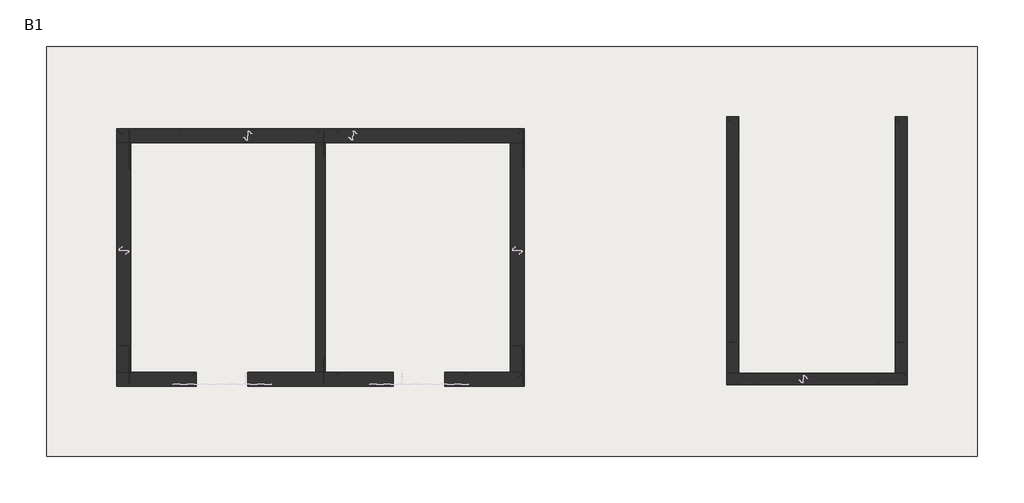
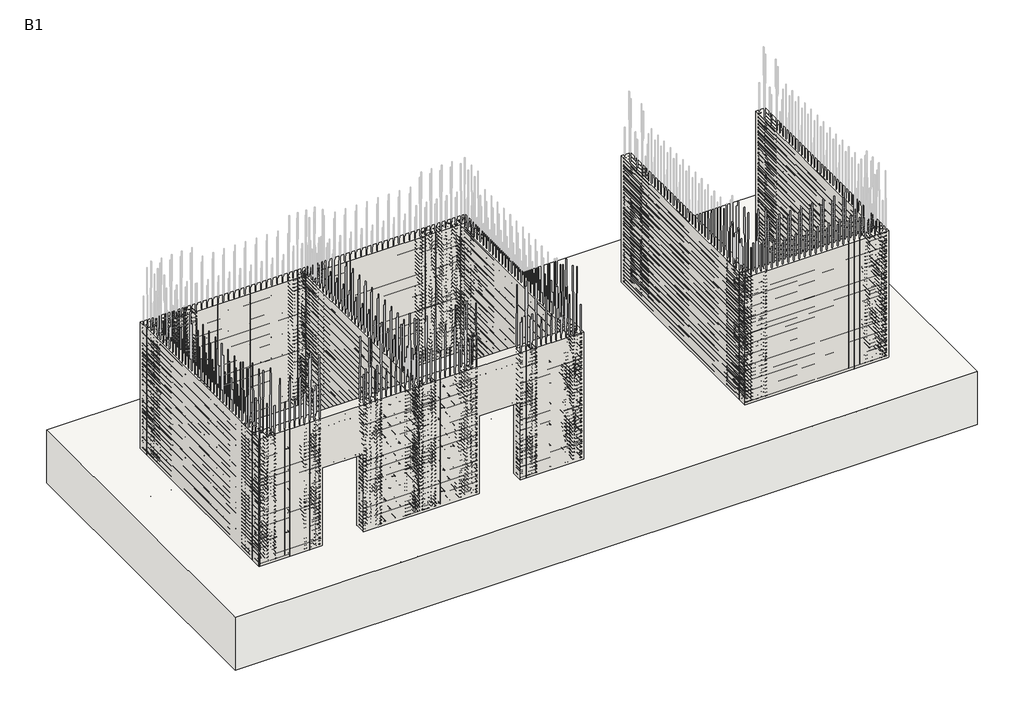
# One storey, part 1 of 29: 8 walls, 1 slab.
"""IFC4 building model written with IfcOpenShell, lengths in millimetres."""

from ifc_helpers import new_model, si_unit, frame, origin, place, context, project, spatial, polyline, outline, extrude, faceted_brep, element, save

model = new_model("IFC4")

# Units and contexts
model_context = context("Model", 3, world=origin())
ifc_project = project(units=[si_unit("LENGTHUNIT", "METRE", prefix="MILLI")], contexts=[model_context])

# Site, building, storey
site = spatial("IfcSite", under=ifc_project)
building = spatial("IfcBuilding", under=site)
storey = spatial("IfcBuildingStorey", under=building, Name="B1", Elevation=-3600.0)

# Slab
placement = place(None, origin())
element("IfcSlab", 1, ObjectType="BS-Móng bè 1500", at=placement, inside=storey, context=model_context, shape_type="SweptSolid", body=[
    extrude(outline(polyline([(18225.0, -1650.0), (-1650.0, -1650.0), (-1650.0, 7100.0), (18225.0, 7100.0), (18225.0, -1650.0)])), frame((0.0, 0.0, -5100.0), z_axis=(0.0, 0.0, 1.0), x_axis=(1.0, 0.0, 0.0)), (0.0, 0.0, 1.0), 1500.0),
])

# Walls
element("IfcWall", 2, ObjectType="BS-Vách 300", at=placement, inside=storey, context=model_context, shape_type="Brep", body=[
    faceted_brep([(-150.0, 5050.0, -3600.0), (150.0, 5050.0, -3600.0), (4100.0, 5050.0, -3600.0), (4300.0, 5050.0, -3600.0), (8250.0, 5050.0, -3600.0), (8550.0, 5050.0, -3600.0), (8550.0, 5050.0, 0.0), (8250.0, 5050.0, 0.0), (4300.0, 5050.0, 0.0), (4100.0, 5050.0, 0.0), (150.0, 5050.0, 0.0), (-150.0, 5050.0, 0.0), (-150.0, 5350.0, -3600.0), (-150.0, 5350.0, 0.0), (8550.0, 5350.0, 0.0), (8550.0, 5350.0, -3600.0)], [[[0, 1, 2, 3, 4, 5, 6, 7, 8, 9, 10, 11]], [[12, 13, 14, 15]], [[5, 4, 3, 2, 1, 0, 12, 15]], [[11, 10, 9, 8, 7, 6, 14, 13]], [[6, 5, 15, 14]], [[0, 11, 13, 12]]]),
])
element("IfcWall", 3, ObjectType="BS-Vách 300", at=placement, inside=storey, context=model_context, shape_type="Brep", body=[
    faceted_brep([(8550.0, -150.0, -3600.0), (8550.0, -150.0, 0.0), (-150.0, -150.0, 0.0), (-150.0, -150.0, -3600.0), (1550.0, -150.0, -3600.0), (1550.0, -150.0, -1400.0), (2650.0, -150.0, -1400.0), (2650.0, -150.0, -3600.0), (5750.0, -150.0, -3600.0), (5750.0, -150.0, -1400.0), (6850.0, -150.0, -1400.0), (6850.0, -150.0, -3600.0), (8550.0, 150.0, 0.0), (8550.0, 150.0, -3600.0), (8250.0, 150.0, -3600.0), (6850.0, 150.0, -3600.0), (6850.0, 150.0, -1400.0), (5750.0, 150.0, -1400.0), (5750.0, 150.0, -3600.0), (4300.0, 150.0, -3600.0), (4100.0, 150.0, -3600.0), (2650.0, 150.0, -3600.0), (2650.0, 150.0, -1400.0), (1550.0, 150.0, -1400.0), (1550.0, 150.0, -3600.0), (150.0, 150.0, -3600.0), (-150.0, 150.0, -3600.0), (-150.0, 150.0, 0.0), (150.0, 150.0, 0.0), (4100.0, 150.0, 0.0), (4300.0, 150.0, 0.0), (8250.0, 150.0, 0.0)], [[[0, 1, 2, 3, 4, 5, 6, 7, 8, 9, 10, 11]], [[12, 13, 14, 15, 16, 17, 18, 19, 20, 21, 22, 23, 24, 25, 26, 27, 28, 29, 30, 31]], [[7, 21, 20, 19, 18, 8]], [[13, 0, 11, 15, 14]], [[3, 26, 25, 24, 4]], [[2, 1, 12, 31, 30, 29, 28, 27]], [[5, 23, 22, 6]], [[23, 5, 4, 24]], [[6, 22, 21, 7]], [[9, 17, 16, 10]], [[17, 9, 8, 18]], [[10, 16, 15, 11]], [[1, 0, 13, 12]], [[3, 2, 27, 26]]]),
])
element("IfcWall", 4, ObjectType="BS-Vách 300", at=placement, inside=storey, context=model_context, shape_type="SweptSolid", body=[
    extrude(outline(polyline([(150.0, 5050.0), (150.0, 150.0), (-150.0, 150.0), (-150.0, 5050.0), (150.0, 5050.0)])), frame((0.0, 0.0, -3600.0), z_axis=(0.0, 0.0, 1.0), x_axis=(1.0, 0.0, 0.0)), (0.0, 0.0, 1.0), 3600.0),
])
element("IfcWall", 5, ObjectType="BS-Vách 300", at=placement, inside=storey, context=model_context, shape_type="SweptSolid", body=[
    extrude(outline(polyline([(8550.0, 5050.0), (8550.0, 150.0), (8250.0, 150.0), (8250.0, 5050.0), (8550.0, 5050.0)])), frame((0.0, 0.0, -3600.0), z_axis=(0.0, 0.0, 1.0), x_axis=(1.0, 0.0, 0.0)), (0.0, 0.0, 1.0), 3600.0),
])
element("IfcWall", 6, ObjectType="BS-Vách 200", at=placement, inside=storey, context=model_context, shape_type="SweptSolid", body=[
    extrude(outline(polyline([(4300.0, 5050.0), (4300.0, 150.0), (4100.0, 150.0), (4100.0, 5050.0), (4300.0, 5050.0)])), frame((0.0, 0.0, -3600.0), z_axis=(0.0, 0.0, 1.0), x_axis=(1.0, 0.0, 0.0)), (0.0, 0.0, 1.0), 3600.0),
])
element("IfcWall", 7, ObjectType="BS-Vách 250", at=placement, inside=storey, context=model_context, shape_type="Brep", body=[
    faceted_brep([(12875.0, -125.0, -3600.0), (16725.0, -125.0, -3600.0), (16725.0, -125.0, 0.0), (12875.0, -125.0, 0.0), (12875.0, 125.0, -3600.0), (12875.0, 125.0, 0.0), (13125.0, 125.0, 0.0), (16475.0, 125.0, 0.0), (16725.0, 125.0, 0.0), (16725.0, 125.0, -3600.0), (16475.0, 125.0, -3600.0), (13125.0, 125.0, -3600.0)], [[[0, 1, 2, 3]], [[4, 5, 6, 7, 8, 9, 10, 11]], [[1, 0, 4, 11, 10, 9]], [[3, 2, 8, 7, 6, 5]], [[2, 1, 9, 8]], [[0, 3, 5, 4]]]),
])
element("IfcWall", 8, ObjectType="BS-Vách 250", at=placement, inside=storey, context=model_context, shape_type="SweptSolid", body=[
    extrude(outline(polyline([(13125.0, 5600.0), (13125.0, 125.0), (12875.0, 125.0), (12875.0, 5600.0), (13125.0, 5600.0)])), frame((0.0, 0.0, -3600.0), z_axis=(0.0, 0.0, 1.0), x_axis=(1.0, 0.0, 0.0)), (0.0, 0.0, 1.0), 3600.0),
])
element("IfcWall", 9, ObjectType="BS-Vách 250", at=placement, inside=storey, context=model_context, shape_type="SweptSolid", body=[
    extrude(outline(polyline([(16725.0, 5600.0), (16725.0, 125.0), (16475.0, 125.0), (16475.0, 5600.0), (16725.0, 5600.0)])), frame((0.0, 0.0, -3600.0), z_axis=(0.0, 0.0, 1.0), x_axis=(1.0, 0.0, 0.0)), (0.0, 0.0, 1.0), 3600.0),
])

save(model, "model.ifc")
